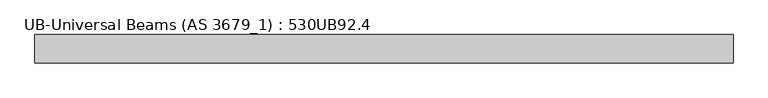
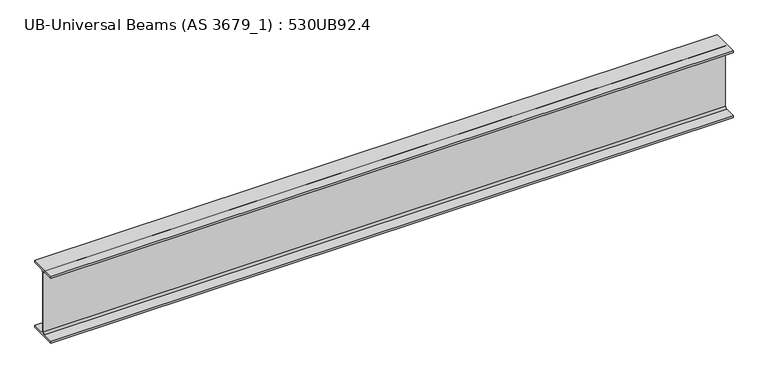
"""IFC4 building model written with IfcOpenShell, lengths in millimetres: beam geometry, UB-Universal Beams (AS 3679_1) : 530UB92.4."""

from ifc_helpers import new_model, si_unit, point, frame, frame_2d, origin, place, context, project, spatial, polyline, circle_curve, trimmed, segment, composite_curve, outline, extrude, source, transform, mapped, element, save


def ub_universal_beams_as_3679_1_530ub92_4_ca06928b(model_context):
    return source(origin(), model_context, "Body", "SweptSolid", [
        extrude(outline(composite_curve([segment(polyline([(104.5, -250.9), (104.5, -266.5), (-104.5, -266.5), (-104.5, -250.9), (-19.1, -250.9)]), True, "CONTINUOUS"), segment(trimmed(circle_curve(frame_2d((-19.1, -236.9)), 14.0), [point((-19.1, -250.9))], [point((-5.1, -236.9))], True, "CARTESIAN"), True, "CONTINUOUS"), segment(polyline([(-5.1, -236.9), (-5.1, 236.9)]), True, "CONTINUOUS"), segment(trimmed(circle_curve(frame_2d((-19.1, 236.9)), 14.0), [point((-5.1, 236.9))], [point((-19.1, 250.9))], True, "CARTESIAN"), True, "CONTINUOUS"), segment(polyline([(-19.1, 250.9), (-104.5, 250.9), (-104.5, 266.5), (104.5, 266.5), (104.5, 250.9), (19.1, 250.9)]), True, "CONTINUOUS"), segment(trimmed(circle_curve(frame_2d((19.1, 236.9)), 14.0), [point((19.1, 250.9))], [point((5.1, 236.9))], True, "CARTESIAN"), True, "CONTINUOUS"), segment(polyline([(5.1, 236.9), (5.1, -236.9)]), True, "CONTINUOUS"), segment(trimmed(circle_curve(frame_2d((19.1, -236.9)), 14.0), [point((5.1, -236.9))], [point((19.1, -250.9))], True, "CARTESIAN"), True, "CONTINUOUS"), segment(polyline([(19.1, -250.9), (104.5, -250.9)]), True, "CONTINUOUS")], self_intersect=False)), frame((-2473.6, 0.0, 0.0), z_axis=(1.0, 0.0, 0.0), x_axis=(0.0, 1.0, 0.0)), (0.0, 0.0, 1.0), 5148.3),
    ])


if __name__ == "__main__":
    model = new_model("IFC4")
    model_context = context("Model", 3, world=origin())
    ifc_project = project(units=[si_unit("LENGTHUNIT", "METRE", prefix="MILLI")], contexts=[model_context])
    site = spatial("IfcSite", under=ifc_project)
    building = spatial("IfcBuilding", under=site)
    placement = place(None, origin())
    ub_universal_beams_as_3679_1_530ub92_4_shape = ub_universal_beams_as_3679_1_530ub92_4_ca06928b(model_context)
    element("IfcBeam", 1, ObjectType="UB-Universal Beams (AS 3679_1) : 530UB92.4", at=placement, inside=building, context=model_context, shape_type="MappedRepresentation", body=[
        mapped(ub_universal_beams_as_3679_1_530ub92_4_shape, transform((0.0, 0.0, 0.0), x_axis=(1.0, 0.0, 0.0), y_axis=(0.0, 1.0, 0.0), z_axis=(0.0, 0.0, 1.0))),
    ])
    save(model, "model.ifc")
